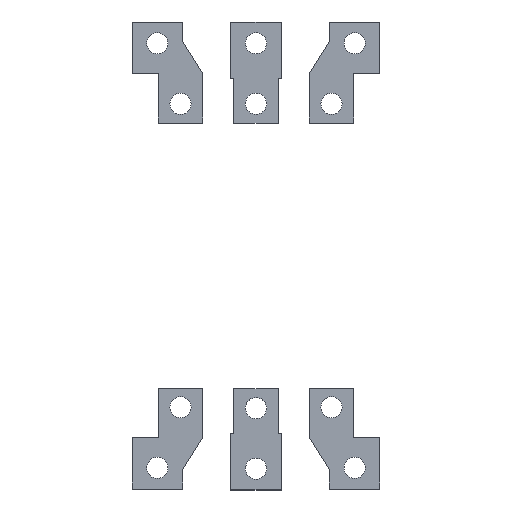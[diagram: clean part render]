
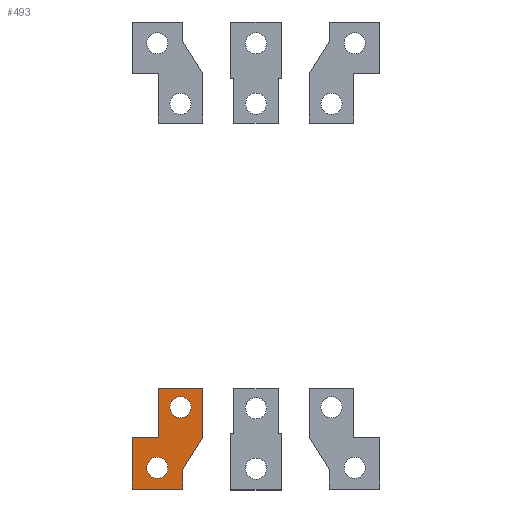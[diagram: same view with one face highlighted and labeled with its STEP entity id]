
A CAD part, top view. The second image highlights one B-rep face of the part: STEP entity #493.
In plain terms, the highlighted planar face has unit normal (0, 0, 1).
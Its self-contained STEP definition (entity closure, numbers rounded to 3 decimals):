
#142 = ORIENTED_EDGE ( 'NONE', *, *, #318, .T. ) ;
#151 = DIRECTION ( 'NONE',  ( -1., 0., 0. ) ) ;
#204 = DIRECTION ( 'NONE',  ( 1., 0., 0. ) ) ;
#226 = EDGE_CURVE ( 'NONE', #1007, #2533, #671, .T. ) ;
#271 = AXIS2_PLACEMENT_3D ( 'NONE', #1711, #3576, #204 ) ;
#287 = CARTESIAN_POINT ( 'NONE',  ( -61.34, -90.05, 29. ) ) ;
#309 = DIRECTION ( 'NONE',  ( 0., -1., 0. ) ) ;
#318 = EDGE_CURVE ( 'NONE', #1008, #1281, #3004, .T. ) ;
#323 = CARTESIAN_POINT ( 'NONE',  ( -37.34, -75.05, 29. ) ) ;
#390 = EDGE_CURVE ( 'NONE', #1565, #1736, #2102, .T. ) ;
#440 = CARTESIAN_POINT ( 'NONE',  ( -36.34, -106.05, 29. ) ) ;
#458 = LINE ( 'NONE', #3411, #728 ) ;
#483 = FACE_BOUND ( 'NONE', #3909, .T. ) ;
#493 = ADVANCED_FACE ( 'NONE', ( #1894, #483, #853 ), #1483, .T. ) ;
#520 = VERTEX_POINT ( 'NONE', #2426 ) ;
#567 = CARTESIAN_POINT ( 'NONE',  ( -48.34, -90.05, 29. ) ) ;
#616 = CARTESIAN_POINT ( 'NONE',  ( -48.34, -65.55, 29. ) ) ;
#618 = CARTESIAN_POINT ( 'NONE',  ( -48.34, -115.55, 29. ) ) ;
#645 = LINE ( 'NONE', #2756, #3600 ) ;
#656 = DIRECTION ( 'NONE',  ( 1., 0., 0. ) ) ;
#671 = LINE ( 'NONE', #2870, #3518 ) ;
#715 = VECTOR ( 'NONE', #309, 1000. ) ;
#728 = VECTOR ( 'NONE', #3774, 1000. ) ;
#810 = AXIS2_PLACEMENT_3D ( 'NONE', #323, #1152, #1459 ) ;
#852 = AXIS2_PLACEMENT_3D ( 'NONE', #881, #3631, #656 ) ;
#853 = FACE_OUTER_BOUND ( 'NONE', #1774, .T. ) ;
#881 = CARTESIAN_POINT ( 'NONE',  ( -48.84, -105.05, 29. ) ) ;
#944 = VERTEX_POINT ( 'NONE', #2527 ) ;
#987 = EDGE_LOOP ( 'NONE', ( #3765, #3557 ) ) ;
#989 = CARTESIAN_POINT ( 'NONE',  ( -48.34, -65.55, 29. ) ) ;
#993 = CARTESIAN_POINT ( 'NONE',  ( -36.34, -115.55, 29. ) ) ;
#1007 = VERTEX_POINT ( 'NONE', #2680 ) ;
#1008 = VERTEX_POINT ( 'NONE', #567 ) ;
#1049 = ORIENTED_EDGE ( 'NONE', *, *, #2623, .T. ) ;
#1152 = DIRECTION ( 'NONE',  ( 0., 0., 1. ) ) ;
#1170 = ORIENTED_EDGE ( 'NONE', *, *, #2271, .T. ) ;
#1254 = LINE ( 'NONE', #616, #715 ) ;
#1255 = CARTESIAN_POINT ( 'NONE',  ( -48.34, -90.05, 29. ) ) ;
#1281 = VERTEX_POINT ( 'NONE', #1643 ) ;
#1321 = CIRCLE ( 'NONE', #2670, 5.25 ) ;
#1401 = ORIENTED_EDGE ( 'NONE', *, *, #3731, .T. ) ;
#1417 = VERTEX_POINT ( 'NONE', #440 ) ;
#1459 = DIRECTION ( 'NONE',  ( 1., 0., 0. ) ) ;
#1483 = PLANE ( 'NONE',  #1543 ) ;
#1512 = CARTESIAN_POINT ( 'NONE',  ( -37.34, -75.05, 29. ) ) ;
#1543 = AXIS2_PLACEMENT_3D ( 'NONE', #618, #3030, #2729 ) ;
#1559 = DIRECTION ( 'NONE',  ( -1., 0., 0. ) ) ;
#1565 = VERTEX_POINT ( 'NONE', #2313 ) ;
#1643 = CARTESIAN_POINT ( 'NONE',  ( -61.34, -90.05, 29. ) ) ;
#1711 = CARTESIAN_POINT ( 'NONE',  ( -48.84, -105.05, 29. ) ) ;
#1736 = VERTEX_POINT ( 'NONE', #2755 ) ;
#1774 = EDGE_LOOP ( 'NONE', ( #1049, #142, #2421, #2198, #1170, #1401, #1792, #3678 ) ) ;
#1792 = ORIENTED_EDGE ( 'NONE', *, *, #226, .T. ) ;
#1894 = FACE_BOUND ( 'NONE', #987, .T. ) ;
#1909 = VECTOR ( 'NONE', #3667, 1000. ) ;
#1929 = VECTOR ( 'NONE', #2573, 1000. ) ;
#1954 = VERTEX_POINT ( 'NONE', #989 ) ;
#1993 = VECTOR ( 'NONE', #1559, 1000. ) ;
#2042 = CARTESIAN_POINT ( 'NONE',  ( -26.34, -65.55, 29. ) ) ;
#2051 = LINE ( 'NONE', #3070, #1909 ) ;
#2102 = CIRCLE ( 'NONE', #852, 5.25 ) ;
#2170 = EDGE_CURVE ( 'NONE', #520, #944, #1321, .T. ) ;
#2198 = ORIENTED_EDGE ( 'NONE', *, *, #2902, .T. ) ;
#2204 = EDGE_CURVE ( 'NONE', #1281, #2851, #2261, .T. ) ;
#2215 = ORIENTED_EDGE ( 'NONE', *, *, #2170, .F. ) ;
#2261 = LINE ( 'NONE', #287, #3814 ) ;
#2271 = EDGE_CURVE ( 'NONE', #3705, #1417, #2051, .T. ) ;
#2300 = CARTESIAN_POINT ( 'NONE',  ( -61.34, -115.55, 29. ) ) ;
#2313 = CARTESIAN_POINT ( 'NONE',  ( -43.59, -105.05, 29. ) ) ;
#2421 = ORIENTED_EDGE ( 'NONE', *, *, #2204, .T. ) ;
#2426 = CARTESIAN_POINT ( 'NONE',  ( -32.09, -75.05, 29. ) ) ;
#2527 = CARTESIAN_POINT ( 'NONE',  ( -42.59, -75.05, 29. ) ) ;
#2533 = VERTEX_POINT ( 'NONE', #2042 ) ;
#2573 = DIRECTION ( 'NONE',  ( 1., 0., 0. ) ) ;
#2623 = EDGE_CURVE ( 'NONE', #1954, #1008, #1254, .T. ) ;
#2664 = CIRCLE ( 'NONE', #810, 5.25 ) ;
#2670 = AXIS2_PLACEMENT_3D ( 'NONE', #1512, #3035, #3606 ) ;
#2680 = CARTESIAN_POINT ( 'NONE',  ( -26.34, -90.05, 29. ) ) ;
#2706 = EDGE_CURVE ( 'NONE', #944, #520, #2664, .T. ) ;
#2729 = DIRECTION ( 'NONE',  ( 1., 0., 0. ) ) ;
#2755 = CARTESIAN_POINT ( 'NONE',  ( -54.09, -105.05, 29. ) ) ;
#2756 = CARTESIAN_POINT ( 'NONE',  ( -26.34, -65.55, 29. ) ) ;
#2851 = VERTEX_POINT ( 'NONE', #3772 ) ;
#2870 = CARTESIAN_POINT ( 'NONE',  ( -26.34, -65.55, 29. ) ) ;
#2902 = EDGE_CURVE ( 'NONE', #2851, #3705, #3346, .T. ) ;
#2935 = EDGE_CURVE ( 'NONE', #1736, #1565, #3133, .T. ) ;
#2994 = DIRECTION ( 'NONE',  ( 0., -1., 0. ) ) ;
#3004 = LINE ( 'NONE', #1255, #1993 ) ;
#3030 = DIRECTION ( 'NONE',  ( 0., 0., 1. ) ) ;
#3035 = DIRECTION ( 'NONE',  ( 0., 0., 1. ) ) ;
#3070 = CARTESIAN_POINT ( 'NONE',  ( -36.34, -115.55, 29. ) ) ;
#3133 = CIRCLE ( 'NONE', #271, 5.25 ) ;
#3346 = LINE ( 'NONE', #2300, #1929 ) ;
#3411 = CARTESIAN_POINT ( 'NONE',  ( -26.34, -90.05, 29. ) ) ;
#3518 = VECTOR ( 'NONE', #3918, 1000. ) ;
#3557 = ORIENTED_EDGE ( 'NONE', *, *, #2935, .F. ) ;
#3576 = DIRECTION ( 'NONE',  ( 0., 0., 1. ) ) ;
#3600 = VECTOR ( 'NONE', #151, 1000. ) ;
#3606 = DIRECTION ( 'NONE',  ( 1., 0., 0. ) ) ;
#3631 = DIRECTION ( 'NONE',  ( 0., 0., 1. ) ) ;
#3667 = DIRECTION ( 'NONE',  ( 0., 1., 0. ) ) ;
#3678 = ORIENTED_EDGE ( 'NONE', *, *, #3741, .T. ) ;
#3705 = VERTEX_POINT ( 'NONE', #993 ) ;
#3731 = EDGE_CURVE ( 'NONE', #1417, #1007, #458, .T. ) ;
#3741 = EDGE_CURVE ( 'NONE', #2533, #1954, #645, .T. ) ;
#3743 = ORIENTED_EDGE ( 'NONE', *, *, #2706, .F. ) ;
#3765 = ORIENTED_EDGE ( 'NONE', *, *, #390, .F. ) ;
#3772 = CARTESIAN_POINT ( 'NONE',  ( -61.34, -115.55, 29. ) ) ;
#3774 = DIRECTION ( 'NONE',  ( 0.53, 0.848, 0. ) ) ;
#3814 = VECTOR ( 'NONE', #2994, 1000. ) ;
#3909 = EDGE_LOOP ( 'NONE', ( #2215, #3743 ) ) ;
#3918 = DIRECTION ( 'NONE',  ( 0., 1., 0. ) ) ;
